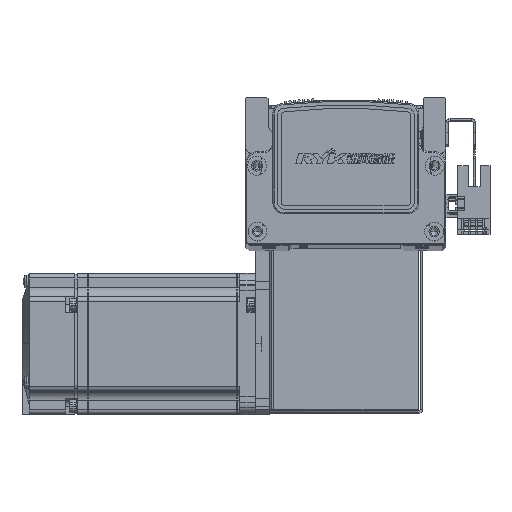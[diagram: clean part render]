
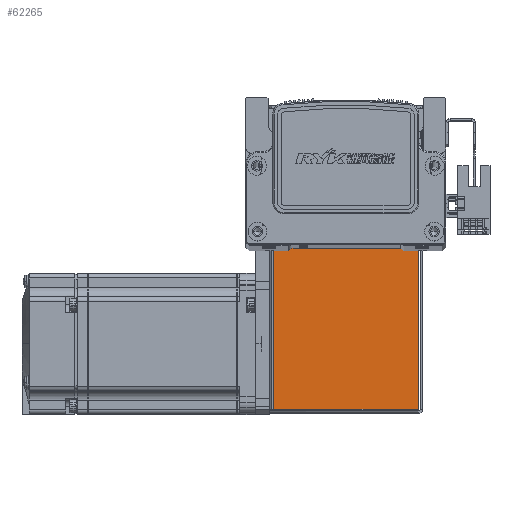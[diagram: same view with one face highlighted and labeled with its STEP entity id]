
A CAD part, top view. The second image highlights one B-rep face of the part: STEP entity #62265.
In plain terms, the highlighted planar face has unit normal (0, 0, 1) as drawn and (0, 0, -1) by its records, which use the part's own axes.
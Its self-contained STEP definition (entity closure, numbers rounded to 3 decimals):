
#9577 = ORIENTED_EDGE ( 'NONE', *, *, #68254, .T. ) ;
#9643 = ORIENTED_EDGE ( 'NONE', *, *, #68243, .F. ) ;
#9652 = ORIENTED_EDGE ( 'NONE', *, *, #68295, .T. ) ;
#9695 = ORIENTED_EDGE ( 'NONE', *, *, #68286, .T. ) ;
#15914 = DIRECTION ( 'NONE',  ( 0., -1., 0. ) ) ;
#15917 = PLANE ( 'NONE',  #53450 ) ;
#15947 = DIRECTION ( 'NONE',  ( 0., 0., 1. ) ) ;
#15979 = CARTESIAN_POINT ( 'NONE',  ( 0., 0., -35. ) ) ;
#24533 = FACE_OUTER_BOUND ( 'NONE', #49303, .T. ) ;
#38941 = CARTESIAN_POINT ( 'NONE',  ( 32.5, 0.737, -35. ) ) ;
#39010 = DIRECTION ( 'NONE',  ( 1., 0., 0. ) ) ;
#39064 = CARTESIAN_POINT ( 'NONE',  ( -30.793, 0., -35. ) ) ;
#39098 = DIRECTION ( 'NONE',  ( 0., 1., 0. ) ) ;
#39160 = CARTESIAN_POINT ( 'NONE',  ( 0., 72.5, -35. ) ) ;
#39163 = DIRECTION ( 'NONE',  ( 1., 0., 0. ) ) ;
#39228 = DIRECTION ( 'NONE',  ( 0., -1., 0. ) ) ;
#39266 = CARTESIAN_POINT ( 'NONE',  ( 30.763, 72.5, -35. ) ) ;
#40113 = VERTEX_POINT ( 'NONE', #51664 ) ;
#40114 = VERTEX_POINT ( 'NONE', #51629 ) ;
#40118 = VERTEX_POINT ( 'NONE', #51676 ) ;
#40159 = VERTEX_POINT ( 'NONE', #51672 ) ;
#44522 = VECTOR ( 'NONE', #39010, 1000. ) ;
#44540 = LINE ( 'NONE', #39064, #44542 ) ;
#44542 = VECTOR ( 'NONE', #39098, 1000. ) ;
#44544 = LINE ( 'NONE', #38941, #44522 ) ;
#44566 = VECTOR ( 'NONE', #39163, 1000. ) ;
#44573 = LINE ( 'NONE', #39266, #44574 ) ;
#44574 = VECTOR ( 'NONE', #39228, 1000. ) ;
#44582 = LINE ( 'NONE', #39160, #44566 ) ;
#49303 = EDGE_LOOP ( 'NONE', ( #9652, #9643, #9577, #9695 ) ) ;
#51629 = CARTESIAN_POINT ( 'NONE',  ( 30.763, 0.737, -35. ) ) ;
#51664 = CARTESIAN_POINT ( 'NONE',  ( -30.793, 0.737, -35. ) ) ;
#51672 = CARTESIAN_POINT ( 'NONE',  ( 30.763, 72.5, -35. ) ) ;
#51676 = CARTESIAN_POINT ( 'NONE',  ( -30.793, 72.5, -35. ) ) ;
#53450 = AXIS2_PLACEMENT_3D ( 'NONE', #15979, #15947, #15914 ) ;
#62265 = ADVANCED_FACE ( 'NONE', ( #24533 ), #15917, .F. ) ;
#68243 = EDGE_CURVE ( 'NONE', #40113, #40114, #44544, .T. ) ;
#68254 = EDGE_CURVE ( 'NONE', #40113, #40118, #44540, .T. ) ;
#68286 = EDGE_CURVE ( 'NONE', #40118, #40159, #44582, .T. ) ;
#68295 = EDGE_CURVE ( 'NONE', #40159, #40114, #44573, .T. ) ;
